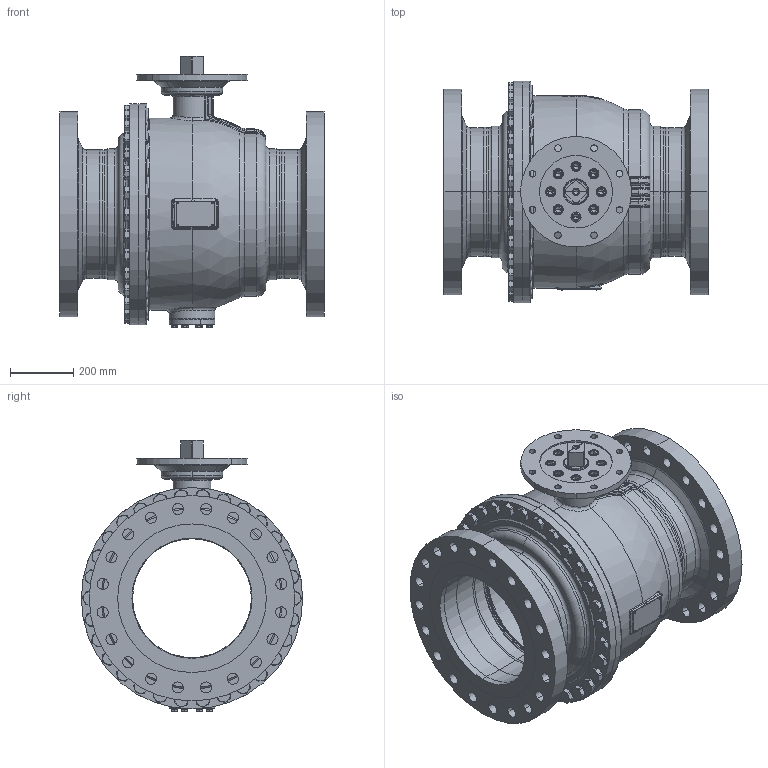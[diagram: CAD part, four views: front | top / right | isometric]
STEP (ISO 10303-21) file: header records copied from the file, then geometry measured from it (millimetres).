
FILE_DESCRIPTION((''),'2;1');
FILE_NAME('KHI-F_400_CL300-F30-4_SW0001','2026-02-05T16:36:58',('fischerkl'),('KLINGER'),'CREO PARAMETRIC BY PTC INC, 2023014','CREO PARAMETRIC BY PTC INC, 2023014','');
FILE_SCHEMA(('CONFIG_CONTROL_DESIGN'));
Products named in the file (1): KHI-F_400_CL300-F30-4_SW0001
Bounding box: 838 x 700 x 858.3 mm (x, y, z)
Volume: 68179453.3 mm3; surface area: 7471104.5 mm2
Topology: 1 solids, 4 shells, 3564 faces, 8982 edges, 5609 vertices
Faces by surface type: plane 1754, cylinder 865, cone 508, torus 307, bspline 99, sphere 31
Entity records: 152556 total; most frequent: CARTESIAN_POINT 67645, ORIENTED_EDGE 17912, DIRECTION 17601, EDGE_CURVE 8956, AXIS2_PLACEMENT_3D 6763, VERTEX_POINT 5609, VECTOR 4075, LINE 4075
